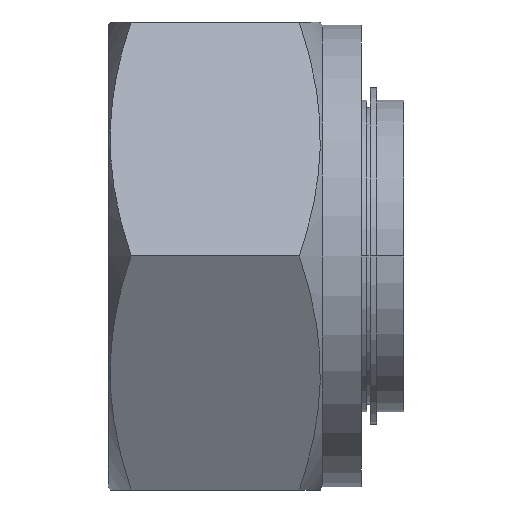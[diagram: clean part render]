
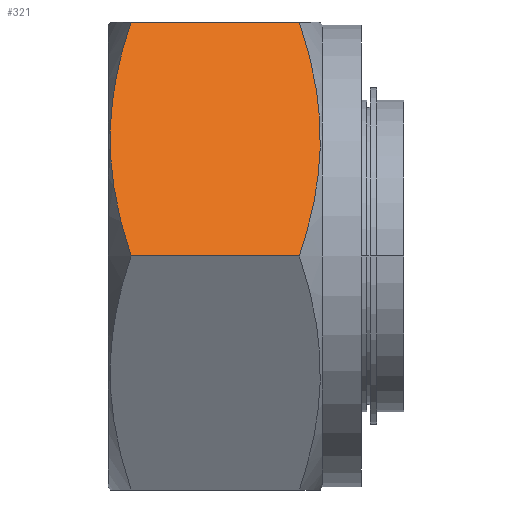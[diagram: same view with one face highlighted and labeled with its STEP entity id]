
A CAD part, front view. The second image highlights one B-rep face of the part: STEP entity #321.
In plain terms, the highlighted planar face has unit normal (0, -0.866, 0.5).
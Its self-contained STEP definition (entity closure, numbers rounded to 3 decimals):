
#107 = VERTEX_POINT ( 'NONE', #1189 ) ;
#244 = ORIENTED_EDGE ( 'NONE', *, *, #3446, .F. ) ;
#245 = ORIENTED_EDGE ( 'NONE', *, *, #258, .T. ) ;
#258 = EDGE_CURVE ( 'NONE', #3452, #801, #1854, .T. ) ;
#321 = ADVANCED_FACE ( 'NONE', ( #2017 ), #2016, .F. ) ;
#322 = EDGE_LOOP ( 'NONE', ( #323, #324, #244, #245 ) ) ;
#323 = ORIENTED_EDGE ( 'NONE', *, *, #719, .F. ) ;
#324 = ORIENTED_EDGE ( 'NONE', *, *, #325, .F. ) ;
#325 = EDGE_CURVE ( 'NONE', #107, #799, #1990, .T. ) ;
#719 = EDGE_CURVE ( 'NONE', #799, #801, #2805, .T. ) ;
#799 = VERTEX_POINT ( 'NONE', #2877 ) ;
#801 = VERTEX_POINT ( 'NONE', #2875 ) ;
#1189 = CARTESIAN_POINT ( 'NONE',  ( 15.554, -21.997, 0. ) ) ;
#1851 = DIRECTION ( 'NONE',  ( -1., 0., 0. ) ) ;
#1852 = VECTOR ( 'NONE', #1851, 1000. ) ;
#1853 = CARTESIAN_POINT ( 'NONE',  ( 20.6, -10.999, 19.05 ) ) ;
#1854 = LINE ( 'NONE', #1853, #1852 ) ;
#1989 = CARTESIAN_POINT ( 'NONE',  ( 20.6, -21.997, 0. ) ) ;
#1990 = LINE ( 'NONE', #1989, #2049 ) ;
#1991 = DIRECTION ( 'NONE',  ( 0., 0.5, 0.866 ) ) ;
#1992 = DIRECTION ( 'NONE',  ( 0., 0.866, -0.5 ) ) ;
#1993 = CARTESIAN_POINT ( 'NONE',  ( 20.6, -10.999, 19.05 ) ) ;
#2004 = AXIS2_PLACEMENT_3D ( 'NONE', #1993, #1992, #1991 ) ;
#2016 = PLANE ( 'NONE',  #2004 ) ;
#2017 = FACE_OUTER_BOUND ( 'NONE', #322, .T. ) ;
#2048 = DIRECTION ( 'NONE',  ( -1., 0., 0. ) ) ;
#2049 = VECTOR ( 'NONE', #2048, 1000. ) ;
#2787 = CARTESIAN_POINT ( 'NONE',  ( 1.846, -10.999, 19.05 ) ) ;
#2788 = CARTESIAN_POINT ( 'NONE',  ( 1.327, -11.898, 17.493 ) ) ;
#2789 = CARTESIAN_POINT ( 'NONE',  ( 0.898, -12.804, 15.923 ) ) ;
#2790 = CARTESIAN_POINT ( 'NONE',  ( 0.454, -14.18, 13.539 ) ) ;
#2791 = CARTESIAN_POINT ( 'NONE',  ( 0.339, -14.642, 12.74 ) ) ;
#2792 = CARTESIAN_POINT ( 'NONE',  ( 0.222, -15.339, 11.533 ) ) ;
#2793 = CARTESIAN_POINT ( 'NONE',  ( 0.193, -15.572, 11.129 ) ) ;
#2794 = CARTESIAN_POINT ( 'NONE',  ( 0.154, -16.04, 10.319 ) ) ;
#2795 = CARTESIAN_POINT ( 'NONE',  ( 0.144, -16.275, 9.912 ) ) ;
#2796 = CARTESIAN_POINT ( 'NONE',  ( 0.146, -17.443, 7.887 ) ) ;
#2797 = CARTESIAN_POINT ( 'NONE',  ( 0.308, -18.367, 6.288 ) ) ;
#2798 = CARTESIAN_POINT ( 'NONE',  ( 0.9, -20.195, 3.122 ) ) ;
#2799 = CARTESIAN_POINT ( 'NONE',  ( 1.327, -21.099, 1.555 ) ) ;
#2800 = CARTESIAN_POINT ( 'NONE',  ( 1.846, -21.997, 0. ) ) ;
#2805 = B_SPLINE_CURVE_WITH_KNOTS ( 'NONE', 3,
 ( #2800, #2799, #2798, #2797, #2796, #2795, #2794, #2793, #2792, #2791, #2790, #2789, #2788, #2787 ),
 .UNSPECIFIED., .F., .F.,
 ( 4, 2, 2, 2, 2, 2, 4 ),
 ( 0., 0.006, 0.011, 0.012, 0.014, 0.017, 0.022 ),
 .UNSPECIFIED. ) ;
#2875 = CARTESIAN_POINT ( 'NONE',  ( 1.846, -10.999, 19.05 ) ) ;
#2877 = CARTESIAN_POINT ( 'NONE',  ( 1.846, -21.997, 0. ) ) ;
#3292 = CARTESIAN_POINT ( 'NONE',  ( 15.554, -10.999, 19.05 ) ) ;
#3298 = CARTESIAN_POINT ( 'NONE',  ( 15.554, -21.997, 0. ) ) ;
#3299 = CARTESIAN_POINT ( 'NONE',  ( 16.073, -21.098, 1.557 ) ) ;
#3300 = CARTESIAN_POINT ( 'NONE',  ( 16.502, -20.191, 3.127 ) ) ;
#3301 = CARTESIAN_POINT ( 'NONE',  ( 16.946, -18.815, 5.511 ) ) ;
#3302 = CARTESIAN_POINT ( 'NONE',  ( 17.061, -18.354, 6.31 ) ) ;
#3303 = CARTESIAN_POINT ( 'NONE',  ( 17.178, -17.657, 7.517 ) ) ;
#3304 = CARTESIAN_POINT ( 'NONE',  ( 17.207, -17.424, 7.921 ) ) ;
#3305 = CARTESIAN_POINT ( 'NONE',  ( 17.246, -16.956, 8.731 ) ) ;
#3306 = CARTESIAN_POINT ( 'NONE',  ( 17.256, -16.721, 9.138 ) ) ;
#3307 = CARTESIAN_POINT ( 'NONE',  ( 17.254, -15.552, 11.163 ) ) ;
#3308 = CARTESIAN_POINT ( 'NONE',  ( 17.092, -14.629, 12.762 ) ) ;
#3309 = CARTESIAN_POINT ( 'NONE',  ( 16.5, -12.801, 15.928 ) ) ;
#3310 = CARTESIAN_POINT ( 'NONE',  ( 16.073, -11.896, 17.495 ) ) ;
#3311 = CARTESIAN_POINT ( 'NONE',  ( 15.554, -10.999, 19.05 ) ) ;
#3315 = B_SPLINE_CURVE_WITH_KNOTS ( 'NONE', 3,
 ( #3311, #3310, #3309, #3308, #3307, #3306, #3305, #3304, #3303, #3302, #3301, #3300, #3299, #3298 ),
 .UNSPECIFIED., .F., .F.,
 ( 4, 2, 2, 2, 2, 2, 4 ),
 ( 0., 0.006, 0.011, 0.012, 0.014, 0.017, 0.022 ),
 .UNSPECIFIED. ) ;
#3446 = EDGE_CURVE ( 'NONE', #3452, #107, #3315, .T. ) ;
#3452 = VERTEX_POINT ( 'NONE', #3292 ) ;
